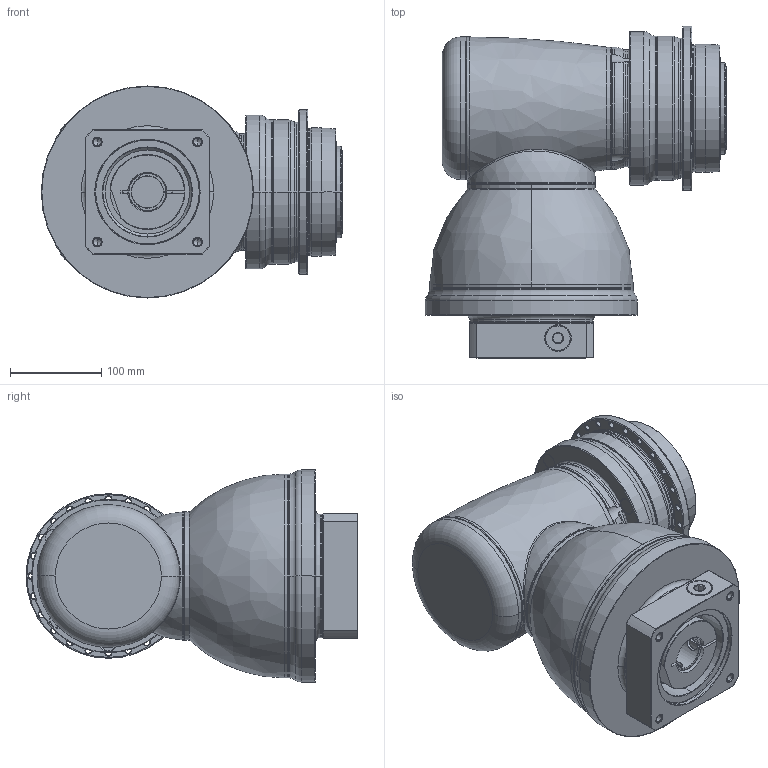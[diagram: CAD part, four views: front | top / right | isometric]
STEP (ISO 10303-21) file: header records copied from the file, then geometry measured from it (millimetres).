
FILE_DESCRIPTION((''),'2;1');
FILE_NAME('APK140_2ST_SBG_35-P0409800201_ASM','2018-10-30T',('d01226'),(''),'PRO/ENGINEER BY PARAMETRIC TECHNOLOGY CORPORATION, 2015240','PRO/ENGINEER BY PARAMETRIC TECHNOLOGY CORPORATION, 2015240','');
FILE_SCHEMA(('CONFIG_CONTROL_DESIGN'));
Length unit declared in the file: millimetre
Products named in the file (13): P0278501003; P0359501103; P1211500001; P1802510011; P1018600002; P1365600001; P1007601001; P1318610101; P0503800012; P0912601001; P0409800201; 21711422019; APK140_2ST_SBG_35-P0409800201_ASM
Assembly tree (12 placements, depth 2):
  APK140_2ST_SBG_35-P0409800201_ASM
    P0278501003
    P0359501103
    P1211500001
    P1802510011
    P1018600002
    P1365600001
    P1007601001
    P1318610101
    P0503800012
    P0912601001
    P0409800201
    21711422019
Bounding box: 329.5 x 363 x 232 mm (x, y, z)
Volume: 10805953.5 mm3; surface area: 809465.3 mm2
Topology: 13 solids, 38 shells, 860 faces, 1968 edges, 1195 vertices
Faces by surface type: cylinder 355, cone 232, plane 145, torus 102, bspline 24, sphere 2
Entity records: 30805 total; most frequent: CARTESIAN_POINT 10704, DIRECTION 4613, ORIENTED_EDGE 3746, AXIS2_PLACEMENT_3D 1977, EDGE_CURVE 1924, VERTEX_POINT 1195, CIRCLE 1106, EDGE_LOOP 1029
